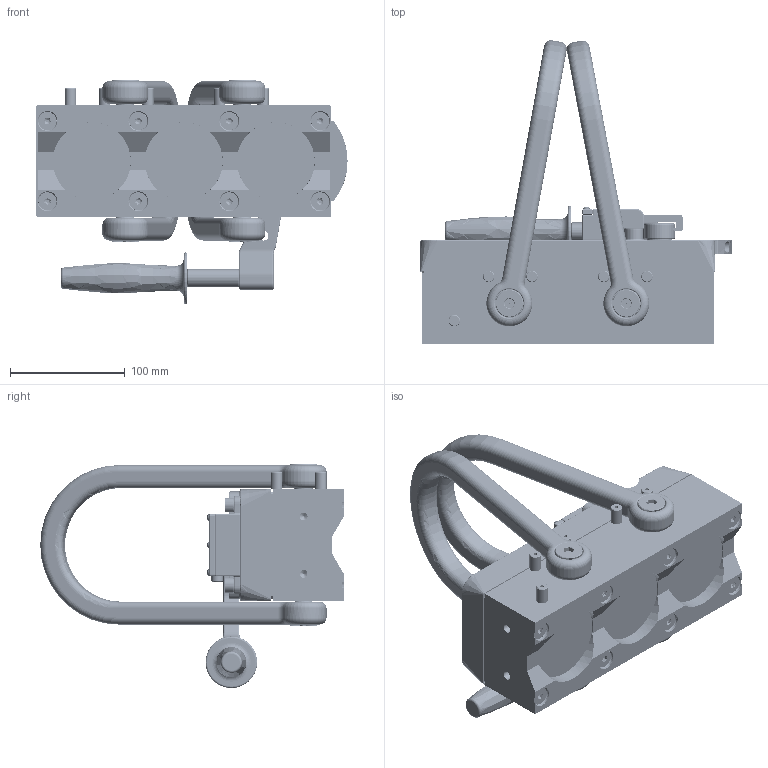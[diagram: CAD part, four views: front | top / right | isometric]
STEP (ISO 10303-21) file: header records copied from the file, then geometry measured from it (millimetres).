
FILE_DESCRIPTION (( 'STEP AP214' ), '1' );
FILE_NAME ('8000403_test.STEP', '2020-03-09T20:53:57', ( '' ), ( '' ), 'SwSTEP 2.0', 'SolidWorks 2018', '' );
FILE_SCHEMA (( 'AUTOMOTIVE_DESIGN' ));
Length unit declared in the file: millimetre
Products named in the file (12): 180410_92981A495; 320393; 7010038_p; 7050053_p_defeature; 180152; 180438; 7000328_p; 400014; 7030008_p; 180059; 8000403_test; 180515_90278A334
Assembly tree (28 placements, depth 2):
  8000403_test
    7000328_p
    180410_92981A495  x4
    400014
    180059  x5
    180152  x5
    180515_90278A334  x5
    320393  x2
    180438  x2
    7030008_p
    7050053_p_defeature
    7010038_p
Bounding box: 271.26 x 264.62 x 195.35 mm (x, y, z)
Volume: 2731586.1 mm3; surface area: 411414.5 mm2
Topology: 28 solids, 54 shells, 6010 faces, 14773 edges, 8911 vertices
Faces by surface type: cylinder 2298, plane 2071, cone 1080, bspline 349, torus 182, sphere 30
Entity records: 328983 total; most frequent: CARTESIAN_POINT 228351, ORIENTED_EDGE 16676, DIRECTION 14159, EDGE_CURVE 8338, AXIS2_PLACEMENT_3D 5268, VERTEX_POINT 5178, LINE 3623, VECTOR 3623
